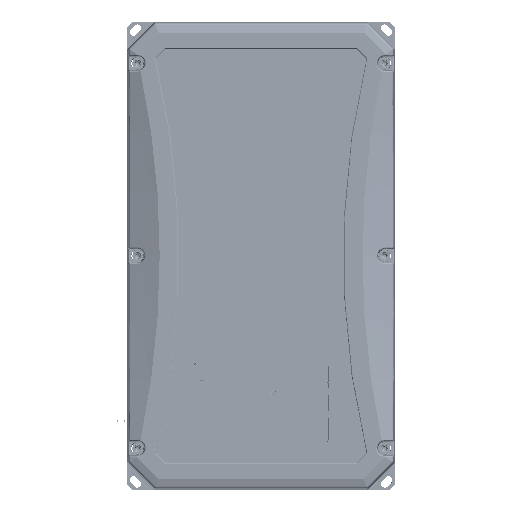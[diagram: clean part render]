
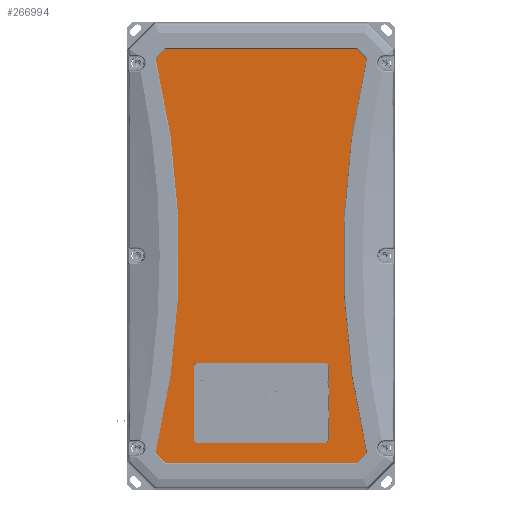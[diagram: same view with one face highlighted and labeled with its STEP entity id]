
A CAD part, top view. The second image highlights one B-rep face of the part: STEP entity #266994.
In plain terms, the highlighted planar face has unit normal (0, 0, 1).
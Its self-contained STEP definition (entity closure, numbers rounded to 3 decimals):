
#11419 = EDGE_CURVE ( 'NONE', #167711, #290342, #204164, .T. ) ;
#14771 = LINE ( 'NONE', #87895, #313595 ) ;
#21883 = DIRECTION ( 'NONE',  ( 0., 1., 0. ) ) ;
#26379 = CARTESIAN_POINT ( 'NONE',  ( -71.633, -154.8, 119.5 ) ) ;
#28927 = VECTOR ( 'NONE', #319767, 1000. ) ;
#37316 = VECTOR ( 'NONE', #51086, 1000. ) ;
#40001 = AXIS2_PLACEMENT_3D ( 'NONE', #101870, #274108, #333433 ) ;
#44956 = CARTESIAN_POINT ( 'NONE',  ( 0., 154.8, 119.5 ) ) ;
#47876 = ORIENTED_EDGE ( 'NONE', *, *, #224014, .F. ) ;
#48444 = ORIENTED_EDGE ( 'NONE', *, *, #266104, .T. ) ;
#51086 = DIRECTION ( 'NONE',  ( 1., 0., 0. ) ) ;
#55690 = CIRCLE ( 'NONE', #80897, 628.7 ) ;
#56103 = CARTESIAN_POINT ( 'NONE',  ( 690., 0., 119.5 ) ) ;
#58939 = CARTESIAN_POINT ( 'NONE',  ( 47.5, 137., 119.5 ) ) ;
#60747 = ORIENTED_EDGE ( 'NONE', *, *, #201184, .T. ) ;
#72946 = CARTESIAN_POINT ( 'NONE',  ( -47.5, 140., 119.5 ) ) ;
#73225 = EDGE_CURVE ( 'NONE', #128183, #289223, #290391, .T. ) ;
#77361 = VERTEX_POINT ( 'NONE', #89776 ) ;
#78789 = VECTOR ( 'NONE', #317653, 1000. ) ;
#80897 = AXIS2_PLACEMENT_3D ( 'NONE', #56103, #258644, #85092 ) ;
#85092 = DIRECTION ( 'NONE',  ( 1., 0., 0. ) ) ;
#86082 = VERTEX_POINT ( 'NONE', #94851 ) ;
#86228 = VERTEX_POINT ( 'NONE', #315005 ) ;
#86810 = EDGE_LOOP ( 'NONE', ( #231447, #311314, #354887, #276001, #48444, #373548, #60747, #195952 ) ) ;
#87895 = CARTESIAN_POINT ( 'NONE',  ( 0., 80., 119.5 ) ) ;
#87996 = DIRECTION ( 'NONE',  ( -1., 0., 0. ) ) ;
#89776 = CARTESIAN_POINT ( 'NONE',  ( 50.5, 83., 119.5 ) ) ;
#94221 = LINE ( 'NONE', #370329, #239304 ) ;
#94851 = CARTESIAN_POINT ( 'NONE',  ( 47.5, 80., 119.5 ) ) ;
#97601 = CARTESIAN_POINT ( 'NONE',  ( 71.633, -154.8, 119.5 ) ) ;
#98328 = FACE_OUTER_BOUND ( 'NONE', #329454, .T. ) ;
#99940 = EDGE_CURVE ( 'NONE', #86228, #207855, #368588, .T. ) ;
#100053 = VECTOR ( 'NONE', #276526, 1000. ) ;
#100284 = CARTESIAN_POINT ( 'NONE',  ( -47.5, 137., 119.5 ) ) ;
#100967 = CARTESIAN_POINT ( 'NONE',  ( 50.5, 137., 119.5 ) ) ;
#101870 = CARTESIAN_POINT ( 'NONE',  ( 0., 255.006, 119.5 ) ) ;
#103976 = CARTESIAN_POINT ( 'NONE',  ( -14.287, -240.72, 119.5 ) ) ;
#107043 = DIRECTION ( 'NONE',  ( 0., 0., -1. ) ) ;
#107732 = EDGE_CURVE ( 'NONE', #212204, #86228, #330993, .T. ) ;
#109573 = CIRCLE ( 'NONE', #334350, 3. ) ;
#117101 = VERTEX_POINT ( 'NONE', #290753 ) ;
#120976 = CARTESIAN_POINT ( 'NONE',  ( 50.5, 255.006, 119.5 ) ) ;
#123710 = CARTESIAN_POINT ( 'NONE',  ( 71.633, 154.8, 119.5 ) ) ;
#126974 = VERTEX_POINT ( 'NONE', #100967 ) ;
#128183 = VERTEX_POINT ( 'NONE', #26379 ) ;
#128968 = VECTOR ( 'NONE', #273580, 1000. ) ;
#129424 = DIRECTION ( 'NONE',  ( -1., 0., 0. ) ) ;
#129753 = EDGE_CURVE ( 'NONE', #275846, #175971, #191339, .T. ) ;
#129963 = CARTESIAN_POINT ( 'NONE',  ( -47.5, 80., 119.5 ) ) ;
#131003 = PLANE ( 'NONE',  #40001 ) ;
#131763 = DIRECTION ( 'NONE',  ( 0., 0., -1. ) ) ;
#136146 = CARTESIAN_POINT ( 'NONE',  ( 78.864, -147.569, 119.5 ) ) ;
#136384 = VECTOR ( 'NONE', #299812, 1000. ) ;
#136878 = DIRECTION ( 'NONE',  ( 0., 0., -1. ) ) ;
#139850 = ORIENTED_EDGE ( 'NONE', *, *, #173479, .T. ) ;
#150384 = CARTESIAN_POINT ( 'NONE',  ( -78.864, -147.569, 119.5 ) ) ;
#159678 = LINE ( 'NONE', #103976, #304490 ) ;
#159734 = VERTEX_POINT ( 'NONE', #150384 ) ;
#160629 = AXIS2_PLACEMENT_3D ( 'NONE', #58939, #261507, #87996 ) ;
#164455 = VERTEX_POINT ( 'NONE', #136146 ) ;
#166936 = EDGE_CURVE ( 'NONE', #290342, #117101, #304987, .T. ) ;
#167474 = AXIS2_PLACEMENT_3D ( 'NONE', #305106, #131763, #334191 ) ;
#167711 = VERTEX_POINT ( 'NONE', #129963 ) ;
#173479 = EDGE_CURVE ( 'NONE', #207855, #159734, #300701, .T. ) ;
#173795 = LINE ( 'NONE', #120976, #28927 ) ;
#175387 = FACE_BOUND ( 'NONE', #86810, .T. ) ;
#175971 = VERTEX_POINT ( 'NONE', #264859 ) ;
#181372 = ORIENTED_EDGE ( 'NONE', *, *, #73225, .T. ) ;
#191339 = LINE ( 'NONE', #367347, #37316 ) ;
#195952 = ORIENTED_EDGE ( 'NONE', *, *, #11419, .T. ) ;
#201184 = EDGE_CURVE ( 'NONE', #86082, #167711, #14771, .T. ) ;
#204164 = CIRCLE ( 'NONE', #246978, 3. ) ;
#207855 = VERTEX_POINT ( 'NONE', #287546 ) ;
#212204 = VERTEX_POINT ( 'NONE', #123710 ) ;
#212708 = EDGE_CURVE ( 'NONE', #273987, #164455, #55690, .T. ) ;
#215234 = EDGE_CURVE ( 'NONE', #117101, #275846, #109573, .T. ) ;
#216666 = CARTESIAN_POINT ( 'NONE',  ( 14.287, -240.72, 119.5 ) ) ;
#224014 = EDGE_CURVE ( 'NONE', #128183, #159734, #359979, .T. ) ;
#231099 = DIRECTION ( 'NONE',  ( -1., 0., 0. ) ) ;
#231447 = ORIENTED_EDGE ( 'NONE', *, *, #166936, .T. ) ;
#237315 = ORIENTED_EDGE ( 'NONE', *, *, #107732, .T. ) ;
#239304 = VECTOR ( 'NONE', #369061, 1000. ) ;
#241833 = CARTESIAN_POINT ( 'NONE',  ( 0., -154.8, 119.5 ) ) ;
#242993 = EDGE_CURVE ( 'NONE', #289223, #164455, #159678, .T. ) ;
#243657 = ORIENTED_EDGE ( 'NONE', *, *, #212708, .F. ) ;
#246978 = AXIS2_PLACEMENT_3D ( 'NONE', #310276, #136878, #339364 ) ;
#249384 = EDGE_CURVE ( 'NONE', #175971, #126974, #326135, .T. ) ;
#250253 = CIRCLE ( 'NONE', #167474, 3. ) ;
#258389 = EDGE_CURVE ( 'NONE', #77361, #86082, #250253, .T. ) ;
#258644 = DIRECTION ( 'NONE',  ( 0., 0., 1. ) ) ;
#261507 = DIRECTION ( 'NONE',  ( 0., 0., -1. ) ) ;
#264859 = CARTESIAN_POINT ( 'NONE',  ( 47.5, 140., 119.5 ) ) ;
#266104 = EDGE_CURVE ( 'NONE', #126974, #77361, #173795, .T. ) ;
#266994 = ADVANCED_FACE ( 'NONE', ( #175387, #98328 ), #131003, .F. ) ;
#273580 = DIRECTION ( 'NONE',  ( -0.707, 0.707, 0. ) ) ;
#273987 = VERTEX_POINT ( 'NONE', #329678 ) ;
#274108 = DIRECTION ( 'NONE',  ( 0., 0., -1. ) ) ;
#275846 = VERTEX_POINT ( 'NONE', #72946 ) ;
#276001 = ORIENTED_EDGE ( 'NONE', *, *, #249384, .T. ) ;
#276526 = DIRECTION ( 'NONE',  ( -1., 0., 0. ) ) ;
#280480 = CARTESIAN_POINT ( 'NONE',  ( -690., 0., 119.5 ) ) ;
#287546 = CARTESIAN_POINT ( 'NONE',  ( -78.864, 147.569, 119.5 ) ) ;
#288534 = CARTESIAN_POINT ( 'NONE',  ( 14.287, 240.72, 119.5 ) ) ;
#289223 = VERTEX_POINT ( 'NONE', #97601 ) ;
#290342 = VERTEX_POINT ( 'NONE', #348453 ) ;
#290391 = LINE ( 'NONE', #241833, #136384 ) ;
#290753 = CARTESIAN_POINT ( 'NONE',  ( -50.5, 137., 119.5 ) ) ;
#296927 = AXIS2_PLACEMENT_3D ( 'NONE', #280480, #107043, #309520 ) ;
#299812 = DIRECTION ( 'NONE',  ( 1., 0., 0. ) ) ;
#300701 = CIRCLE ( 'NONE', #296927, 628.7 ) ;
#301781 = EDGE_CURVE ( 'NONE', #212204, #273987, #94221, .T. ) ;
#302717 = DIRECTION ( 'NONE',  ( 0., 0., -1. ) ) ;
#304490 = VECTOR ( 'NONE', #306477, 1000. ) ;
#304987 = LINE ( 'NONE', #368495, #372960 ) ;
#305106 = CARTESIAN_POINT ( 'NONE',  ( 47.5, 83., 119.5 ) ) ;
#306086 = ORIENTED_EDGE ( 'NONE', *, *, #99940, .T. ) ;
#306477 = DIRECTION ( 'NONE',  ( 0.707, 0.707, 0. ) ) ;
#309520 = DIRECTION ( 'NONE',  ( -1., 0., 0. ) ) ;
#310276 = CARTESIAN_POINT ( 'NONE',  ( -47.5, 83., 119.5 ) ) ;
#311314 = ORIENTED_EDGE ( 'NONE', *, *, #215234, .T. ) ;
#313595 = VECTOR ( 'NONE', #231099, 1000. ) ;
#315005 = CARTESIAN_POINT ( 'NONE',  ( -71.633, 154.8, 119.5 ) ) ;
#317653 = DIRECTION ( 'NONE',  ( -0.707, -0.707, 0. ) ) ;
#319767 = DIRECTION ( 'NONE',  ( 0., -1., 0. ) ) ;
#323309 = ORIENTED_EDGE ( 'NONE', *, *, #242993, .T. ) ;
#326135 = CIRCLE ( 'NONE', #160629, 3. ) ;
#329454 = EDGE_LOOP ( 'NONE', ( #323309, #243657, #356674, #237315, #306086, #139850, #47876, #181372 ) ) ;
#329678 = CARTESIAN_POINT ( 'NONE',  ( 78.864, 147.569, 119.5 ) ) ;
#330993 = LINE ( 'NONE', #44956, #100053 ) ;
#333433 = DIRECTION ( 'NONE',  ( -1., 0., 0. ) ) ;
#334191 = DIRECTION ( 'NONE',  ( -1., 0., 0. ) ) ;
#334350 = AXIS2_PLACEMENT_3D ( 'NONE', #100284, #302717, #129424 ) ;
#339364 = DIRECTION ( 'NONE',  ( -1., 0., 0. ) ) ;
#348453 = CARTESIAN_POINT ( 'NONE',  ( -50.5, 83., 119.5 ) ) ;
#354887 = ORIENTED_EDGE ( 'NONE', *, *, #129753, .T. ) ;
#356674 = ORIENTED_EDGE ( 'NONE', *, *, #301781, .F. ) ;
#359979 = LINE ( 'NONE', #216666, #128968 ) ;
#367347 = CARTESIAN_POINT ( 'NONE',  ( 0., 140., 119.5 ) ) ;
#368495 = CARTESIAN_POINT ( 'NONE',  ( -50.5, 255.006, 119.5 ) ) ;
#368588 = LINE ( 'NONE', #288534, #78789 ) ;
#369061 = DIRECTION ( 'NONE',  ( 0.707, -0.707, 0. ) ) ;
#370329 = CARTESIAN_POINT ( 'NONE',  ( -14.287, 240.72, 119.5 ) ) ;
#372960 = VECTOR ( 'NONE', #21883, 1000. ) ;
#373548 = ORIENTED_EDGE ( 'NONE', *, *, #258389, .T. ) ;
